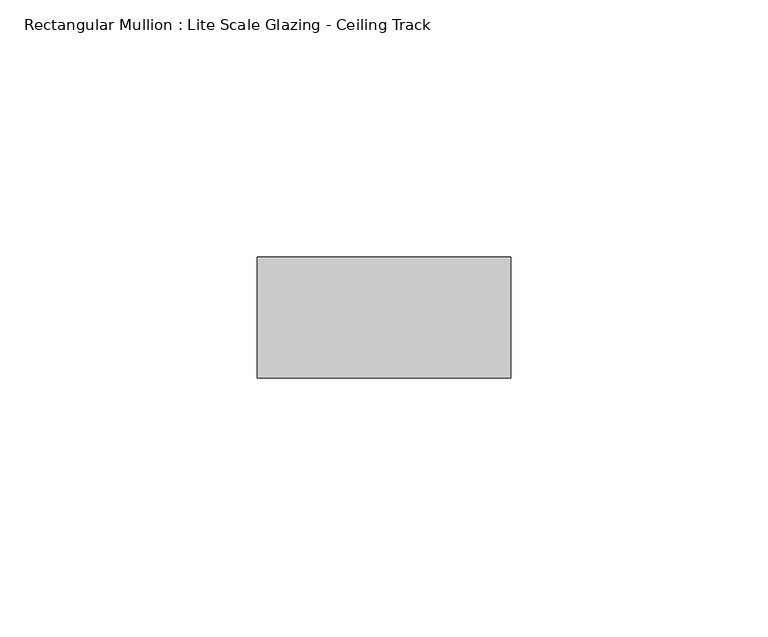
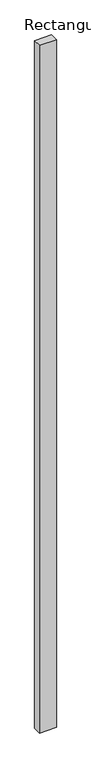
"""IFC4 building model written with IfcOpenShell, lengths in millimetres: member geometry, Rectangular Mullion : Lite Scale Glazing - Ceiling Track."""

import ifcopenshell
import ifcopenshell.guid

model = None  # the IFC model being written
_history = None  # IfcOwnerHistory: only IFC2X3 demands one
_inside = {}  # id of a spatial element -> (the spatial element, [elements in it])
_under = {}  # id of a project, library or spatial element -> (it, [spatial elements below it])
_declared = {}  # id of a project -> (the project, [libraries it declares])
_typed = {}  # id of a type object -> (the type object, [elements of that type])
_made_of = {}  # id of a material, layer set ... -> (it, [elements and type objects made of it])


def new_model(schema):
    """Start an empty IFC model of exactly this schema.

    Asked for "IFC4X3", IfcOpenShell would pick the latest addendum, in which some entities
    have other attributes; the version numbers below select the first issue.
    IFC2X3 requires an IfcOwnerHistory on every rooted entity: one is made here for all.
    """
    global model, _history
    if schema == "IFC4X3":
        model = ifcopenshell.file(schema_version=(4, 3, 0, 0))
    else:
        model = ifcopenshell.file(schema=schema)
    _inside.clear()
    _under.clear()
    _declared.clear()
    _typed.clear()
    _made_of.clear()
    _history = None
    if model.schema == "IFC2X3":
        org = make("IfcOrganization", Name="unknown")
        user = make(
            "IfcPersonAndOrganization",
            ThePerson=make("IfcPerson", FamilyName="unknown"),
            TheOrganization=org,
        )
        app = make(
            "IfcApplication",
            ApplicationDeveloper=org,
            Version="unknown",
            ApplicationFullName="unknown",
            ApplicationIdentifier="unknown",
        )
        _history = make(
            "IfcOwnerHistory",
            OwningUser=user,
            OwningApplication=app,
            ChangeAction="ADDED",
            CreationDate=0,
        )
    return model


def make(cls, **values):
    """One entity of the class cls with the attributes given. An attribute that is None is left unset."""
    return model.create_entity(
        cls, **{name: value for name, value in values.items() if value is not None}
    )


def rooted(cls, **values):
    """An entity with a GlobalId (a new one), such as an element, a storey or a relation."""
    return make(cls, GlobalId=ifcopenshell.guid.new(), OwnerHistory=_history, **values)


def si_unit(unit_type, name, prefix=None):
    """IfcSIUnit, for example si_unit("LENGTHUNIT", "METRE", prefix="MILLI")."""
    return make("IfcSIUnit", UnitType=unit_type, Prefix=prefix, Name=name)


def assignment(units):
    """IfcUnitAssignment: the units of a project."""
    return None if units is None else make("IfcUnitAssignment", Units=units)


def point(xyz):
    """IfcCartesianPoint."""
    return None if xyz is None else make("IfcCartesianPoint", Coordinates=xyz)


def direction(xyz):
    """IfcDirection."""
    return None if xyz is None else make("IfcDirection", DirectionRatios=xyz)


def frame(location, z_axis=None, x_axis=None):
    """IfcAxis2Placement3D, a coordinate frame: its origin and axes. An axis left out is left unset."""
    return make(
        "IfcAxis2Placement3D",
        Location=point(location),
        Axis=direction(z_axis),
        RefDirection=direction(x_axis),
    )


def origin():
    """The frame at (0, 0, 0) with its axes left unset."""
    return frame((0.0, 0.0, 0.0))


def place(relative_to, where):
    """IfcLocalPlacement: puts the frame where relative to a parent placement (None: the world)."""
    return make(
        "IfcLocalPlacement", PlacementRelTo=relative_to, RelativePlacement=where
    )


def context(
    kind, dimensions, precision=None, world=None, true_north=None, identifier=None
):
    """IfcGeometricRepresentationContext, for example the 3D "Model" context."""
    return make(
        "IfcGeometricRepresentationContext",
        ContextIdentifier=identifier,
        ContextType=kind,
        CoordinateSpaceDimension=dimensions,
        Precision=precision,
        WorldCoordinateSystem=world,
        TrueNorth=true_north,
    )


def project(units=None, contexts=None):
    """IfcProject with its units and contexts."""
    return rooted(
        "IfcProject",
        Name="project",
        RepresentationContexts=contexts,
        UnitsInContext=assignment(units),
    )


def spatial(cls, under=None, at=None, **own):
    """A site, building, storey or space (cls), placed at a placement, below another one or the project."""
    s = rooted(cls, ObjectPlacement=at, **own)
    if under is not None:
        _under.setdefault(under.id(), (under, []))[1].append(s)
    return s


def polyline(points):
    """IfcPolyline through the points."""
    return make("IfcPolyline", Points=[point(p) for p in points])


def outline(outer, holes=None, kind="AREA"):
    """IfcArbitraryClosedProfileDef: a profile drawn as a closed curve; with holes, ...WithVoids."""
    if holes is None:
        return make("IfcArbitraryClosedProfileDef", ProfileType=kind, OuterCurve=outer)
    return make(
        "IfcArbitraryProfileDefWithVoids",
        ProfileType=kind,
        OuterCurve=outer,
        InnerCurves=holes,
    )


def extrude(swept, where, along, depth):
    """IfcExtrudedAreaSolid: the profile swept, set in the frame where, extruded along a direction by depth."""
    return make(
        "IfcExtrudedAreaSolid",
        SweptArea=swept,
        Position=where,
        ExtrudedDirection=direction(along),
        Depth=depth,
    )


def shape(context_of_items, identifier, shape_type, items):
    """IfcShapeRepresentation: the items that make up one representation, for example the "Body"."""
    return make(
        "IfcShapeRepresentation",
        ContextOfItems=context_of_items,
        RepresentationIdentifier=identifier,
        RepresentationType=shape_type,
        Items=items,
    )


def source(mapping_origin, context_of_items, identifier, shape_type, items):
    """IfcRepresentationMap: a shape defined once, which mapped items show again and again."""
    return make(
        "IfcRepresentationMap",
        MappingOrigin=mapping_origin,
        MappedRepresentation=shape(context_of_items, identifier, shape_type, items),
    )


def transform(
    local_origin,
    x_axis=None,
    y_axis=None,
    z_axis=None,
    scale=None,
    scale2=None,
    scale3=None,
    uniform=True,
):
    """IfcCartesianTransformationOperator3D, or its non-uniform kind. x_axis, y_axis, z_axis: its Axis1, 2, 3."""
    if uniform:
        return make(
            "IfcCartesianTransformationOperator3D",
            Axis1=direction(x_axis),
            Axis2=direction(y_axis),
            LocalOrigin=point(local_origin),
            Scale=scale,
            Axis3=direction(z_axis),
        )
    return make(
        "IfcCartesianTransformationOperator3DnonUniform",
        Axis1=direction(x_axis),
        Axis2=direction(y_axis),
        LocalOrigin=point(local_origin),
        Scale=scale,
        Axis3=direction(z_axis),
        Scale2=scale2,
        Scale3=scale3,
    )


def mapped(mapping_source, mapping_target):
    """IfcMappedItem: shows the shape of a source again, moved by a transform."""
    return make(
        "IfcMappedItem", MappingSource=mapping_source, MappingTarget=mapping_target
    )


def made_of(thing, what):
    """Note that an element or type object is made of a material, layer set ...; save() writes the relation."""
    if what is not None:
        _made_of.setdefault(what.id(), (what, []))[1].append(thing)
    return thing


def element(
    cls,
    number,
    at=None,
    inside=None,
    cuts=None,
    type_object=None,
    material=None,
    context=None,
    identifier="Body",
    shape_type=None,
    held_by="IfcProductDefinitionShape",
    body=None,
    shapes=None,
    **own,
):
    """One element of the class cls, such as IfcWall. Its Tag is "e" and its number.

    at: its placement. inside: the storey or other place that contains it. cuts: it is an
    opening in that element (IfcRelVoidsElement). A single representation is given by context,
    identifier, shape_type and body (its items); several are given by shapes. held_by: the class
    of the entity that holds the representations. save() writes the other relations.
    """
    e = rooted(cls, Tag="e%d" % number, ObjectPlacement=at, **own)
    if body is not None:
        shapes = [shape(context, identifier, shape_type, body)]
    if shapes is not None:
        e.Representation = make(held_by, Representations=shapes)
    if inside is not None:
        _inside.setdefault(inside.id(), (inside, []))[1].append(e)
    if cuts is not None:
        rooted(
            "IfcRelVoidsElement", RelatingBuildingElement=cuts, RelatedOpeningElement=e
        )
    if type_object is not None:
        _typed.setdefault(type_object.id(), (type_object, []))[1].append(e)
    return made_of(e, material)


def aggregate(whole, parts):
    """IfcRelAggregates: a whole, such as a stair, and the parts it consists of."""
    return rooted("IfcRelAggregates", RelatingObject=whole, RelatedObjects=parts)


def save(model, path):
    """Write the relations noted so far, then the file.

    IfcRelAggregates (storeys below a building ...), IfcRelContainedInSpatialStructure (elements
    in a storey), IfcRelDefinesByType, IfcRelAssociatesMaterial and IfcRelDeclares: one each for
    every whole, place, type object, material and project.
    """
    for whole, parts in _under.values():
        aggregate(whole, parts)
    for where, things in _inside.values():
        rooted(
            "IfcRelContainedInSpatialStructure",
            RelatedElements=things,
            RelatingStructure=where,
        )
    for kind, things in _typed.values():
        rooted("IfcRelDefinesByType", RelatedObjects=things, RelatingType=kind)
    for what, things in _made_of.values():
        rooted("IfcRelAssociatesMaterial", RelatedObjects=things, RelatingMaterial=what)
    for by, libraries in _declared.values():
        rooted("IfcRelDeclares", RelatingContext=by, RelatedDefinitions=libraries)
    model.write(path)


def rectangular_mullion_lite_scale_glazing_ceiling_track_247b17cf(model_context):
    return source(origin(), model_context, "Body", "SweptSolid", [
        extrude(outline(polyline([(-49.276, -11.7474999), (-49.276, 11.7474999), (0.0, 11.7474999), (0.0, -11.7474999), (-49.276, -11.7474999)])), frame((0.0, 0.0, -2108.2), z_axis=(0.0, 0.0, 1.0), x_axis=(1.0, 0.0, 0.0)), (0.0, 0.0, 1.0), 2108.2),
    ])


if __name__ == "__main__":
    model = new_model("IFC4")
    model_context = context("Model", 3, world=origin())
    ifc_project = project(units=[si_unit("LENGTHUNIT", "METRE", prefix="MILLI")], contexts=[model_context])
    site = spatial("IfcSite", under=ifc_project)
    building = spatial("IfcBuilding", under=site)
    placement = place(None, origin())
    rectangular_mullion_lite_scale_glazing_ceiling_track_shape = rectangular_mullion_lite_scale_glazing_ceiling_track_247b17cf(model_context)
    element("IfcMember", 1, ObjectType="Rectangular Mullion : Lite Scale Glazing - Ceiling Track", at=placement, inside=building, context=model_context, shape_type="MappedRepresentation", body=[
        mapped(rectangular_mullion_lite_scale_glazing_ceiling_track_shape, transform((0.0, 0.0, 0.0), x_axis=(1.0, 0.0, 0.0), y_axis=(0.0, 1.0, 0.0), z_axis=(0.0, 0.0, 1.0))),
    ])
    save(model, "model.ifc")
